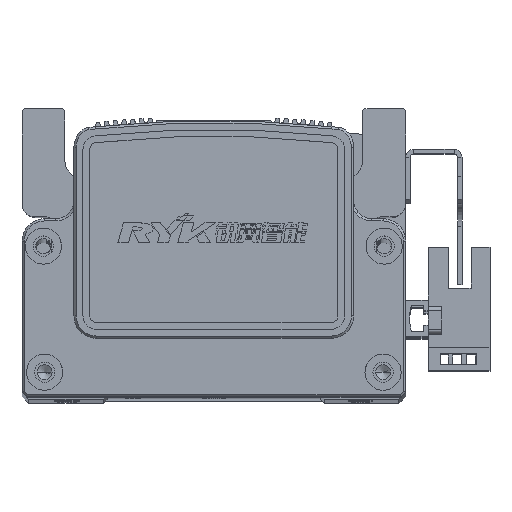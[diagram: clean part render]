
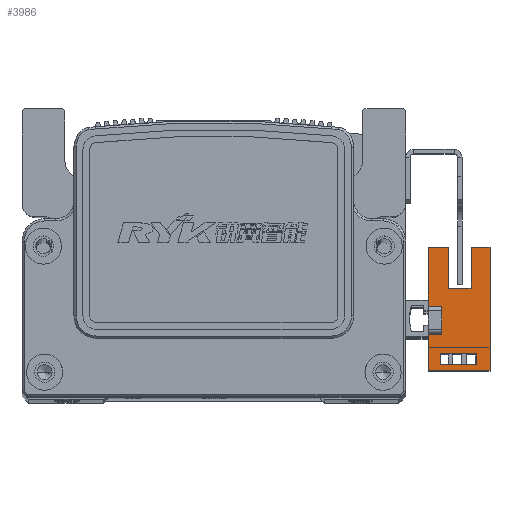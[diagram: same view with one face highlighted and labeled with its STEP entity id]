
A CAD part, top view. The second image highlights one B-rep face of the part: STEP entity #3986.
In plain terms, the highlighted planar face has unit normal (0, 0, 1) as drawn and (1, 0, 0) by its records, which use the part's own axes.
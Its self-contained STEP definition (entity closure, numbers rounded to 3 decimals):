
#2741 = CARTESIAN_POINT ( 'NONE',  ( 3.2, 25.1, -1.5 ) ) ;
#2748 = CARTESIAN_POINT ( 'NONE',  ( 3.2, 16.1, -10.7 ) ) ;
#2763 = DIRECTION ( 'NONE',  ( 0., 1., 0. ) ) ;
#2767 = DIRECTION ( 'NONE',  ( 0., 1., 0. ) ) ;
#3986 = ADVANCED_FACE ( 'NONE', ( #9646, #9700 ), #19648, .T. ) ;
#9578 = CARTESIAN_POINT ( 'NONE',  ( 3.2, -9.83, 0.3 ) ) ;
#9598 = CARTESIAN_POINT ( 'NONE',  ( 3.2, 7.1, -1.5 ) ) ;
#9615 = CARTESIAN_POINT ( 'NONE',  ( 3.2, -9.83, -7.7 ) ) ;
#9643 = CARTESIAN_POINT ( 'NONE',  ( 3.2, -7.33, -7.7 ) ) ;
#9645 = CARTESIAN_POINT ( 'NONE',  ( 3.2, -3.1, 0. ) ) ;
#9646 = FACE_OUTER_BOUND ( 'NONE', #23073, .T. ) ;
#9655 = CARTESIAN_POINT ( 'NONE',  ( 3.2, 3.1, 0. ) ) ;
#9700 = FACE_BOUND ( 'NONE', #22984, .T. ) ;
#11443 = ORIENTED_EDGE ( 'NONE', *, *, #15605, .F. ) ;
#11445 = ORIENTED_EDGE ( 'NONE', *, *, #15595, .F. ) ;
#11449 = ORIENTED_EDGE ( 'NONE', *, *, #15610, .F. ) ;
#11451 = ORIENTED_EDGE ( 'NONE', *, *, #15687, .F. ) ;
#11459 = ORIENTED_EDGE ( 'NONE', *, *, #15556, .F. ) ;
#11463 = ORIENTED_EDGE ( 'NONE', *, *, #15524, .F. ) ;
#11464 = ORIENTED_EDGE ( 'NONE', *, *, #15781, .T. ) ;
#11467 = ORIENTED_EDGE ( 'NONE', *, *, #15642, .T. ) ;
#11469 = ORIENTED_EDGE ( 'NONE', *, *, #15620, .T. ) ;
#11472 = ORIENTED_EDGE ( 'NONE', *, *, #15409, .F. ) ;
#11473 = ORIENTED_EDGE ( 'NONE', *, *, #15483, .T. ) ;
#11476 = ORIENTED_EDGE ( 'NONE', *, *, #15730, .F. ) ;
#11481 = ORIENTED_EDGE ( 'NONE', *, *, #15631, .F. ) ;
#11506 = ORIENTED_EDGE ( 'NONE', *, *, #15599, .T. ) ;
#11519 = ORIENTED_EDGE ( 'NONE', *, *, #15612, .F. ) ;
#11525 = ORIENTED_EDGE ( 'NONE', *, *, #15762, .T. ) ;
#15409 = EDGE_CURVE ( 'NONE', #38615, #38696, #21433, .T. ) ;
#15483 = EDGE_CURVE ( 'NONE', #38723, #38708, #21503, .T. ) ;
#15524 = EDGE_CURVE ( 'NONE', #38689, #38598, #21531, .T. ) ;
#15556 = EDGE_CURVE ( 'NONE', #38748, #38615, #21562, .T. ) ;
#15595 = EDGE_CURVE ( 'NONE', #38696, #36935, #21638, .T. ) ;
#15599 = EDGE_CURVE ( 'NONE', #38708, #38810, #21637, .T. ) ;
#15605 = EDGE_CURVE ( 'NONE', #38807, #36972, #21595, .T. ) ;
#15610 = EDGE_CURVE ( 'NONE', #36941, #38807, #21605, .T. ) ;
#15612 = EDGE_CURVE ( 'NONE', #36965, #36941, #21653, .T. ) ;
#15620 = EDGE_CURVE ( 'NONE', #38733, #38598, #21646, .T. ) ;
#15631 = EDGE_CURVE ( 'NONE', #36935, #36947, #21615, .T. ) ;
#15642 = EDGE_CURVE ( 'NONE', #38810, #36980, #21596, .T. ) ;
#15687 = EDGE_CURVE ( 'NONE', #36972, #36965, #21669, .T. ) ;
#15730 = EDGE_CURVE ( 'NONE', #36947, #38689, #21707, .T. ) ;
#15762 = EDGE_CURVE ( 'NONE', #36980, #38733, #21744, .T. ) ;
#15781 = EDGE_CURVE ( 'NONE', #38748, #38723, #21763, .T. ) ;
#19648 = PLANE ( 'NONE',  #25147 ) ;
#19718 = CARTESIAN_POINT ( 'NONE',  ( 3.2, 16.1, -10.7 ) ) ;
#20215 = DIRECTION ( 'NONE',  ( 1., 0., 0. ) ) ;
#20247 = DIRECTION ( 'NONE',  ( 0., 1., 0. ) ) ;
#21433 = LINE ( 'NONE', #24431, #21441 ) ;
#21441 = VECTOR ( 'NONE', #24459, 1000. ) ;
#21503 = LINE ( 'NONE', #24525, #21525 ) ;
#21525 = VECTOR ( 'NONE', #24549, 1000. ) ;
#21531 = LINE ( 'NONE', #24564, #21557 ) ;
#21557 = VECTOR ( 'NONE', #24570, 1000. ) ;
#21562 = LINE ( 'NONE', #24595, #21570 ) ;
#21570 = VECTOR ( 'NONE', #24622, 1000. ) ;
#21595 = LINE ( 'NONE', #24698, #21623 ) ;
#21596 = LINE ( 'NONE', #24836, #21636 ) ;
#21605 = LINE ( 'NONE', #24670, #21630 ) ;
#21606 = VECTOR ( 'NONE', #24662, 1000. ) ;
#21607 = VECTOR ( 'NONE', #24676, 1000. ) ;
#21615 = LINE ( 'NONE', #24745, #21643 ) ;
#21623 = VECTOR ( 'NONE', #24665, 1000. ) ;
#21630 = VECTOR ( 'NONE', #24699, 1000. ) ;
#21633 = VECTOR ( 'NONE', #24720, 1000. ) ;
#21636 = VECTOR ( 'NONE', #24860, 1000. ) ;
#21637 = LINE ( 'NONE', #24656, #21641 ) ;
#21638 = LINE ( 'NONE', #24680, #21606 ) ;
#21641 = VECTOR ( 'NONE', #24639, 1000. ) ;
#21643 = VECTOR ( 'NONE', #24762, 1000. ) ;
#21646 = LINE ( 'NONE', #24707, #21633 ) ;
#21653 = LINE ( 'NONE', #24647, #21607 ) ;
#21669 = LINE ( 'NONE', #31656, #21714 ) ;
#21707 = LINE ( 'NONE', #31628, #21780 ) ;
#21714 = VECTOR ( 'NONE', #31668, 1000. ) ;
#21729 = VECTOR ( 'NONE', #2767, 1000. ) ;
#21740 = VECTOR ( 'NONE', #2763, 1000. ) ;
#21744 = LINE ( 'NONE', #2741, #21740 ) ;
#21763 = LINE ( 'NONE', #2748, #21729 ) ;
#21780 = VECTOR ( 'NONE', #31610, 1000. ) ;
#22984 = EDGE_LOOP ( 'NONE', ( #11443, #11449, #11519, #11451 ) ) ;
#23073 = EDGE_LOOP ( 'NONE', ( #11506, #11467, #11525, #11469, #11463, #11476, #11481, #11445, #11472, #11459, #11464, #11473 ) ) ;
#24431 = CARTESIAN_POINT ( 'NONE',  ( 3.2, 16.1, 3. ) ) ;
#24459 = DIRECTION ( 'NONE',  ( 0., 1., 0. ) ) ;
#24525 = CARTESIAN_POINT ( 'NONE',  ( 3.2, 16.1, -10.7 ) ) ;
#24549 = DIRECTION ( 'NONE',  ( 0., 0., 1. ) ) ;
#24564 = CARTESIAN_POINT ( 'NONE',  ( 3.2, 16.1, 3. ) ) ;
#24570 = DIRECTION ( 'NONE',  ( 0., 1., 0. ) ) ;
#24595 = CARTESIAN_POINT ( 'NONE',  ( 3.2, -11.1, 3. ) ) ;
#24622 = DIRECTION ( 'NONE',  ( 0., 0., 1. ) ) ;
#24639 = DIRECTION ( 'NONE',  ( 0., -1., 0. ) ) ;
#24647 = CARTESIAN_POINT ( 'NONE',  ( 3.2, 16.1, -7.7 ) ) ;
#24656 = CARTESIAN_POINT ( 'NONE',  ( 3.2, 25.1, -6.5 ) ) ;
#24662 = DIRECTION ( 'NONE',  ( 0., 0., -1. ) ) ;
#24665 = DIRECTION ( 'NONE',  ( 0., -1., 0. ) ) ;
#24670 = CARTESIAN_POINT ( 'NONE',  ( 3.2, -7.33, -10.7 ) ) ;
#24676 = DIRECTION ( 'NONE',  ( 0., 1., 0. ) ) ;
#24680 = CARTESIAN_POINT ( 'NONE',  ( 3.2, -3.1, 3. ) ) ;
#24698 = CARTESIAN_POINT ( 'NONE',  ( 3.2, 16.1, 0.3 ) ) ;
#24699 = DIRECTION ( 'NONE',  ( 0., 0., 1. ) ) ;
#24707 = CARTESIAN_POINT ( 'NONE',  ( 3.2, 16.1, -10.7 ) ) ;
#24720 = DIRECTION ( 'NONE',  ( 0., 0., 1. ) ) ;
#24745 = CARTESIAN_POINT ( 'NONE',  ( 3.2, 0., 0. ) ) ;
#24762 = DIRECTION ( 'NONE',  ( 0., 1., 0. ) ) ;
#24836 = CARTESIAN_POINT ( 'NONE',  ( 3.2, 7.1, -6.5 ) ) ;
#24860 = DIRECTION ( 'NONE',  ( 0., 0., 1. ) ) ;
#25147 = AXIS2_PLACEMENT_3D ( 'NONE', #19718, #20215, #20247 ) ;
#31610 = DIRECTION ( 'NONE',  ( 0., 0., 1. ) ) ;
#31628 = CARTESIAN_POINT ( 'NONE',  ( 3.2, 3.1, 3. ) ) ;
#31656 = CARTESIAN_POINT ( 'NONE',  ( 3.2, -9.83, -10.7 ) ) ;
#31668 = DIRECTION ( 'NONE',  ( 0., 0., -1. ) ) ;
#36935 = VERTEX_POINT ( 'NONE', #9645 ) ;
#36941 = VERTEX_POINT ( 'NONE', #9643 ) ;
#36947 = VERTEX_POINT ( 'NONE', #9655 ) ;
#36965 = VERTEX_POINT ( 'NONE', #9615 ) ;
#36972 = VERTEX_POINT ( 'NONE', #9578 ) ;
#36980 = VERTEX_POINT ( 'NONE', #9598 ) ;
#38598 = VERTEX_POINT ( 'NONE', #42977 ) ;
#38615 = VERTEX_POINT ( 'NONE', #42938 ) ;
#38689 = VERTEX_POINT ( 'NONE', #43029 ) ;
#38696 = VERTEX_POINT ( 'NONE', #43053 ) ;
#38708 = VERTEX_POINT ( 'NONE', #43034 ) ;
#38723 = VERTEX_POINT ( 'NONE', #43009 ) ;
#38733 = VERTEX_POINT ( 'NONE', #43039 ) ;
#38748 = VERTEX_POINT ( 'NONE', #43086 ) ;
#38807 = VERTEX_POINT ( 'NONE', #43118 ) ;
#38810 = VERTEX_POINT ( 'NONE', #43096 ) ;
#42938 = CARTESIAN_POINT ( 'NONE',  ( 3.2, -11.1, 3. ) ) ;
#42977 = CARTESIAN_POINT ( 'NONE',  ( 3.2, 16.1, 3. ) ) ;
#43009 = CARTESIAN_POINT ( 'NONE',  ( 3.2, 16.1, -10.7 ) ) ;
#43029 = CARTESIAN_POINT ( 'NONE',  ( 3.2, 3.1, 3. ) ) ;
#43034 = CARTESIAN_POINT ( 'NONE',  ( 3.2, 16.1, -6.5 ) ) ;
#43039 = CARTESIAN_POINT ( 'NONE',  ( 3.2, 16.1, -1.5 ) ) ;
#43053 = CARTESIAN_POINT ( 'NONE',  ( 3.2, -3.1, 3. ) ) ;
#43086 = CARTESIAN_POINT ( 'NONE',  ( 3.2, -11.1, -10.7 ) ) ;
#43096 = CARTESIAN_POINT ( 'NONE',  ( 3.2, 7.1, -6.5 ) ) ;
#43118 = CARTESIAN_POINT ( 'NONE',  ( 3.2, -7.33, 0.3 ) ) ;
